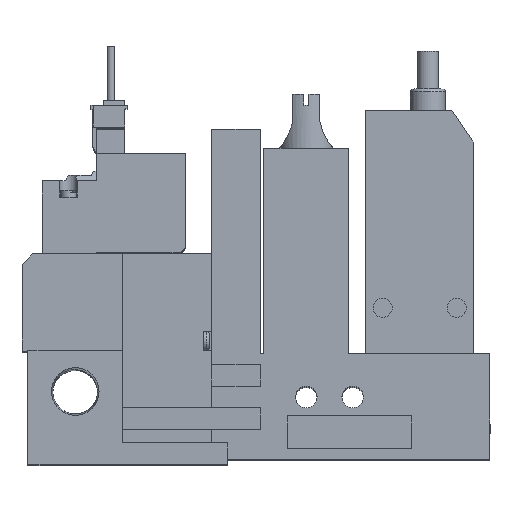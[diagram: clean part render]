
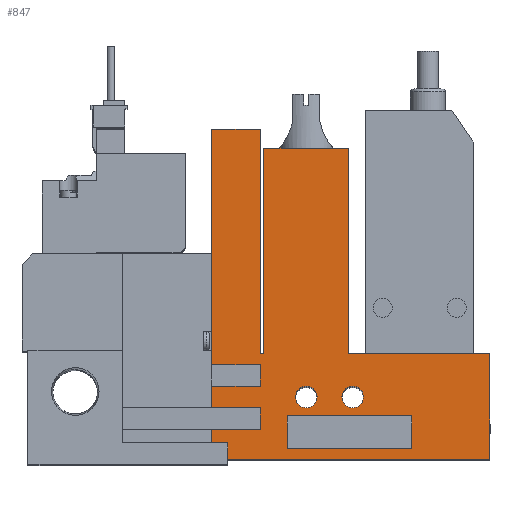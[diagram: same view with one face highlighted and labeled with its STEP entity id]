
A CAD part, top view. The second image highlights one B-rep face of the part: STEP entity #847.
In plain terms, the highlighted planar face has unit normal (0, 0, 1).
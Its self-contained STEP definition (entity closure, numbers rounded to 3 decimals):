
#847=ADVANCED_FACE('',(#1676,#1677,#1678,#1679),#1680,.T.);
#1676=FACE_OUTER_BOUND('',#2796,.T.);
#1677=FACE_BOUND('',#2797,.T.);
#1678=FACE_BOUND('',#2798,.T.);
#1679=FACE_BOUND('',#2799,.T.);
#1680=PLANE('',#2800);
#2796=EDGE_LOOP('',(#5742,#5743,#5744,#5745,#5746,#5747,#5748,#5749,#5750,#5751,#5752,#5753,#5754,#5755,#5756,#5757,#5758,#5759));
#2797=EDGE_LOOP('',(#5760,#5761,#5762,#5763));
#2798=EDGE_LOOP('',(#5764));
#2799=EDGE_LOOP('',(#5765));
#2800=AXIS2_PLACEMENT_3D('',#5766,#5767,#5768);
#5742=ORIENTED_EDGE('',*,*,#7723,.T.);
#5743=ORIENTED_EDGE('',*,*,#7686,.T.);
#5744=ORIENTED_EDGE('',*,*,#7626,.T.);
#5745=ORIENTED_EDGE('',*,*,#7699,.T.);
#5746=ORIENTED_EDGE('',*,*,#7733,.T.);
#5747=ORIENTED_EDGE('',*,*,#7734,.T.);
#5748=ORIENTED_EDGE('',*,*,#7622,.T.);
#5749=ORIENTED_EDGE('',*,*,#7735,.T.);
#5750=ORIENTED_EDGE('',*,*,#7736,.T.);
#5751=ORIENTED_EDGE('',*,*,#7737,.T.);
#5752=ORIENTED_EDGE('',*,*,#7650,.T.);
#5753=ORIENTED_EDGE('',*,*,#7738,.T.);
#5754=ORIENTED_EDGE('',*,*,#7705,.T.);
#5755=ORIENTED_EDGE('',*,*,#7708,.T.);
#5756=ORIENTED_EDGE('',*,*,#7739,.T.);
#5757=ORIENTED_EDGE('',*,*,#7632,.T.);
#5758=ORIENTED_EDGE('',*,*,#7740,.T.);
#5759=ORIENTED_EDGE('',*,*,#7730,.T.);
#5760=ORIENTED_EDGE('',*,*,#7741,.T.);
#5761=ORIENTED_EDGE('',*,*,#7606,.T.);
#5762=ORIENTED_EDGE('',*,*,#7742,.T.);
#5763=ORIENTED_EDGE('',*,*,#7728,.T.);
#5764=ORIENTED_EDGE('',*,*,#7665,.T.);
#5765=ORIENTED_EDGE('',*,*,#7664,.T.);
#5766=CARTESIAN_POINT('',(0.0,0.0,10.0));
#5767=DIRECTION('',(0.0,0.0,1.0));
#5768=DIRECTION('',(1.0,0.0,0.0));
#7606=EDGE_CURVE('',#9207,#9212,#9214,.T.);
#7622=EDGE_CURVE('',#9237,#9242,#9244,.T.);
#7626=EDGE_CURVE('',#9245,#9250,#9252,.T.);
#7632=EDGE_CURVE('',#9263,#9261,#9264,.T.);
#7650=EDGE_CURVE('',#9293,#9291,#9294,.T.);
#7664=EDGE_CURVE('',#9318,#9318,#9319,.T.);
#7665=EDGE_CURVE('',#9320,#9320,#9321,.T.);
#7686=EDGE_CURVE('',#9351,#9245,#9354,.T.);
#7699=EDGE_CURVE('',#9250,#9371,#9373,.T.);
#7705=EDGE_CURVE('',#9383,#9381,#9384,.T.);
#7708=EDGE_CURVE('',#9381,#9386,#9388,.T.);
#7723=EDGE_CURVE('',#9408,#9351,#9409,.T.);
#7728=EDGE_CURVE('',#9411,#9416,#9418,.T.);
#7730=EDGE_CURVE('',#9420,#9408,#9421,.T.);
#7733=EDGE_CURVE('',#9371,#9425,#9426,.T.);
#7734=EDGE_CURVE('',#9425,#9237,#9427,.T.);
#7735=EDGE_CURVE('',#9242,#9428,#9429,.T.);
#7736=EDGE_CURVE('',#9428,#9430,#9431,.T.);
#7737=EDGE_CURVE('',#9430,#9293,#9432,.T.);
#7738=EDGE_CURVE('',#9291,#9383,#9433,.T.);
#7739=EDGE_CURVE('',#9386,#9263,#9434,.T.);
#7740=EDGE_CURVE('',#9261,#9420,#9435,.T.);
#7741=EDGE_CURVE('',#9416,#9207,#9436,.T.);
#7742=EDGE_CURVE('',#9212,#9411,#9437,.T.);
#9207=VERTEX_POINT('',#11787);
#9212=VERTEX_POINT('',#11794);
#9214=LINE('',#11797,#11798);
#9237=VERTEX_POINT('',#11828);
#9242=VERTEX_POINT('',#11835);
#9244=LINE('',#11838,#11839);
#9245=VERTEX_POINT('',#11840);
#9250=VERTEX_POINT('',#11847);
#9252=LINE('',#11850,#11851);
#9261=VERTEX_POINT('',#11864);
#9263=VERTEX_POINT('',#11867);
#9264=LINE('',#11868,#11869);
#9291=VERTEX_POINT('',#11912);
#9293=VERTEX_POINT('',#11915);
#9294=LINE('',#11916,#11917);
#9318=VERTEX_POINT('',#11953);
#9319=CIRCLE('',#11954,2.0);
#9320=VERTEX_POINT('',#11955);
#9321=CIRCLE('',#11956,2.0);
#9351=VERTEX_POINT('',#12004);
#9354=LINE('',#12009,#12010);
#9371=VERTEX_POINT('',#12038);
#9373=LINE('',#12041,#12042);
#9381=VERTEX_POINT('',#12053);
#9383=VERTEX_POINT('',#12056);
#9384=LINE('',#12057,#12058);
#9386=VERTEX_POINT('',#12061);
#9388=LINE('',#12064,#12065);
#9408=VERTEX_POINT('',#12097);
#9409=LINE('',#12098,#12099);
#9411=VERTEX_POINT('',#12102);
#9416=VERTEX_POINT('',#12109);
#9418=LINE('',#12112,#12113);
#9420=VERTEX_POINT('',#12116);
#9421=LINE('',#12117,#12118);
#9425=VERTEX_POINT('',#12123);
#9426=LINE('',#12124,#12125);
#9427=LINE('',#12126,#12127);
#9428=VERTEX_POINT('',#12128);
#9429=LINE('',#12129,#12130);
#9430=VERTEX_POINT('',#12131);
#9431=LINE('',#12132,#12133);
#9432=LINE('',#12134,#12135);
#9433=LINE('',#12136,#12137);
#9434=LINE('',#12138,#12139);
#9435=LINE('',#12140,#12141);
#9436=LINE('',#12142,#12143);
#9437=LINE('',#12144,#12145);
#11787=CARTESIAN_POINT('',(49.1,8.0,10.0));
#11794=CARTESIAN_POINT('',(72.1,8.0,10.0));
#11797=CARTESIAN_POINT('',(0.0,8.0,10.0));
#11798=VECTOR('',#13955,1.0);
#11828=CARTESIAN_POINT('',(44.1,9.5,10.0));
#11835=CARTESIAN_POINT('',(44.1,5.5,10.0));
#11838=CARTESIAN_POINT('',(44.1,0.0,10.0));
#11839=VECTOR('',#13981,1.0);
#11840=CARTESIAN_POINT('',(44.1,17.5,10.0));
#11847=CARTESIAN_POINT('',(44.1,13.5,10.0));
#11850=CARTESIAN_POINT('',(44.1,0.0,10.0));
#11851=VECTOR('',#13985,1.0);
#11864=CARTESIAN_POINT('',(44.1,19.5,10.0));
#11867=CARTESIAN_POINT('',(44.75,19.5,10.0));
#11868=CARTESIAN_POINT('',(44.75,19.5,10.0));
#11869=VECTOR('',#13991,1.0);
#11912=CARTESIAN_POINT('',(86.6,19.5,10.0));
#11915=CARTESIAN_POINT('',(86.6,0.0,10.0));
#11916=CARTESIAN_POINT('',(86.6,0.0,10.0));
#11917=VECTOR('',#14009,1.0);
#11953=CARTESIAN_POINT('',(63.2,11.5,10.0));
#11954=AXIS2_PLACEMENT_3D('',#14025,#14026,#14027);
#11955=CARTESIAN_POINT('',(54.6,11.5,10.0));
#11956=AXIS2_PLACEMENT_3D('',#14028,#14029,#14030);
#12004=CARTESIAN_POINT('',(35.1,17.5,10.0));
#12009=CARTESIAN_POINT('',(0.0,17.5,10.0));
#12010=VECTOR('',#14051,1.0);
#12038=CARTESIAN_POINT('',(35.1,13.5,10.0));
#12041=CARTESIAN_POINT('',(0.0,13.5,10.0));
#12042=VECTOR('',#14064,1.0);
#12053=CARTESIAN_POINT('',(60.45,57.5,10.0));
#12056=CARTESIAN_POINT('',(60.45,19.5,10.0));
#12057=CARTESIAN_POINT('',(60.45,19.5,10.0));
#12058=VECTOR('',#14072,1.0);
#12061=CARTESIAN_POINT('',(44.75,57.5,10.0));
#12064=CARTESIAN_POINT('',(60.45,57.5,10.0));
#12065=VECTOR('',#14075,1.0);
#12097=CARTESIAN_POINT('',(35.1,61.0,10.0));
#12098=CARTESIAN_POINT('',(35.1,61.0,10.0));
#12099=VECTOR('',#14094,1.0);
#12102=CARTESIAN_POINT('',(72.1,2.0,10.0));
#12109=CARTESIAN_POINT('',(49.1,2.0,10.0));
#12112=CARTESIAN_POINT('',(0.0,2.0,10.0));
#12113=VECTOR('',#14099,1.0);
#12116=CARTESIAN_POINT('',(44.1,61.0,10.0));
#12117=CARTESIAN_POINT('',(44.1,61.0,10.0));
#12118=VECTOR('',#14101,1.0);
#12123=CARTESIAN_POINT('',(35.1,9.5,10.0));
#12124=CARTESIAN_POINT('',(35.1,0.0,10.0));
#12125=VECTOR('',#14106,1.0);
#12126=CARTESIAN_POINT('',(0.0,9.5,10.0));
#12127=VECTOR('',#14107,1.0);
#12128=CARTESIAN_POINT('',(35.1,5.5,10.0));
#12129=CARTESIAN_POINT('',(0.0,5.5,10.0));
#12130=VECTOR('',#14108,1.0);
#12131=CARTESIAN_POINT('',(35.1,0.0,10.0));
#12132=CARTESIAN_POINT('',(35.1,0.0,10.0));
#12133=VECTOR('',#14109,1.0);
#12134=CARTESIAN_POINT('',(18.6,0.0,10.0));
#12135=VECTOR('',#14110,1.0);
#12136=CARTESIAN_POINT('',(86.6,19.5,10.0));
#12137=VECTOR('',#14111,1.0);
#12138=CARTESIAN_POINT('',(44.75,57.5,10.0));
#12139=VECTOR('',#14112,1.0);
#12140=CARTESIAN_POINT('',(44.1,19.5,10.0));
#12141=VECTOR('',#14113,1.0);
#12142=CARTESIAN_POINT('',(49.1,0.0,10.0));
#12143=VECTOR('',#14114,1.0);
#12144=CARTESIAN_POINT('',(72.1,0.0,10.0));
#12145=VECTOR('',#14115,1.0);
#13955=DIRECTION('',(1.0,0.0,0.0));
#13981=DIRECTION('',(0.0,-1.0,0.0));
#13985=DIRECTION('',(0.0,-1.0,0.0));
#13991=DIRECTION('',(-1.0,0.0,0.0));
#14009=DIRECTION('',(0.0,1.0,0.0));
#14025=CARTESIAN_POINT('',(61.2,11.5,10.0));
#14026=DIRECTION('',(0.0,0.0,-1.0));
#14027=DIRECTION('',(1.0,0.0,0.0));
#14028=CARTESIAN_POINT('',(52.6,11.5,10.0));
#14029=DIRECTION('',(0.0,0.0,-1.0));
#14030=DIRECTION('',(1.0,0.0,0.0));
#14051=DIRECTION('',(1.0,0.0,0.0));
#14064=DIRECTION('',(-1.0,0.0,0.0));
#14072=DIRECTION('',(0.0,1.0,0.0));
#14075=DIRECTION('',(-1.0,0.0,0.0));
#14094=DIRECTION('',(0.0,-1.0,0.0));
#14099=DIRECTION('',(-1.0,0.0,0.0));
#14101=DIRECTION('',(-1.0,0.0,0.0));
#14106=DIRECTION('',(0.0,-1.0,0.0));
#14107=DIRECTION('',(1.0,0.0,0.0));
#14108=DIRECTION('',(-1.0,0.0,0.0));
#14109=DIRECTION('',(0.0,-1.0,0.0));
#14110=DIRECTION('',(1.0,0.0,0.0));
#14111=DIRECTION('',(-1.0,0.0,0.0));
#14112=DIRECTION('',(0.0,-1.0,0.0));
#14113=DIRECTION('',(0.0,1.0,0.0));
#14114=DIRECTION('',(0.0,1.0,0.0));
#14115=DIRECTION('',(0.0,-1.0,0.0));
